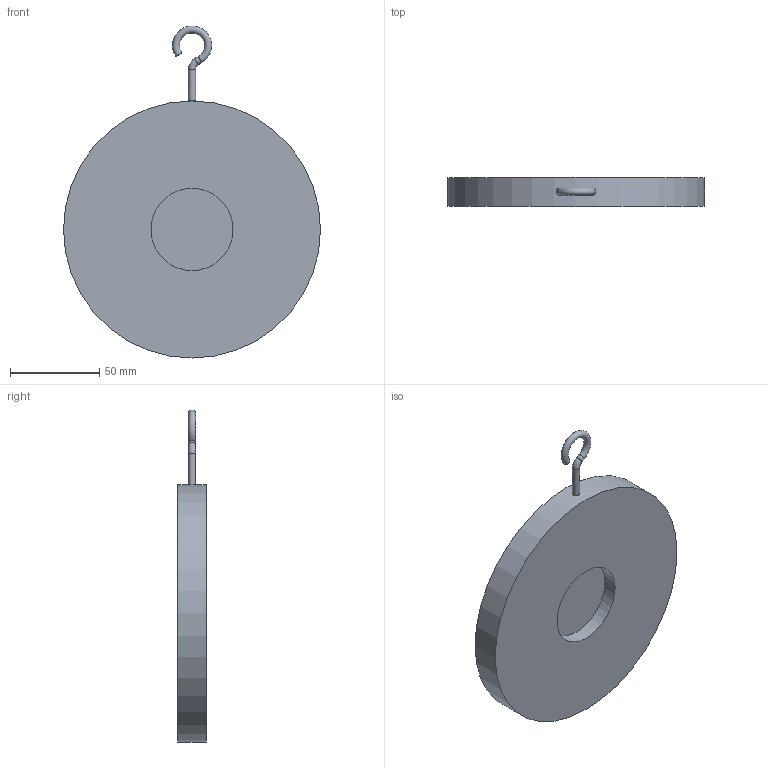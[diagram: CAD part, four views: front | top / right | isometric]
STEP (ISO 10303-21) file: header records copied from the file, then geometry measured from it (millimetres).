
FILE_DESCRIPTION(('STEP AP203'), '1');
FILE_NAME('孰囡囗 钺疣蝽 钿眍耱忸瘅囹 戾骠豚眦邂 008C.Y DN80', '', ('UNSPECIFIED'), ('UNSPECIFIED'), 'ASCON STEP Converter 1.6', 'ASCON Math Kernel', '');
FILE_SCHEMA(('CONFIG_CONTROL_DESIGN'));
Length unit declared in the file: millimetre
Bounding box: 144 x 16 x 186 mm (x, y, z)
Volume: 226564.3 mm3; surface area: 44684.9 mm2
Topology: 1 solids, 1 shells, 32 faces, 72 edges, 47 vertices
Faces by surface type: plane 17, cylinder 12, torus 2, cone 1
Full cylindrical faces by diameter (mm): 4 x2, 46 x1, 144 x1
Entity records: 1352 total; most frequent: CARTESIAN_POINT 353, DIRECTION 152, ORIENTED_EDGE 130, EDGE_CURVE 65, AXIS2_PLACEMENT_3D 59, VERTEX_POINT 47, EDGE_LOOP 44, LINE 34
